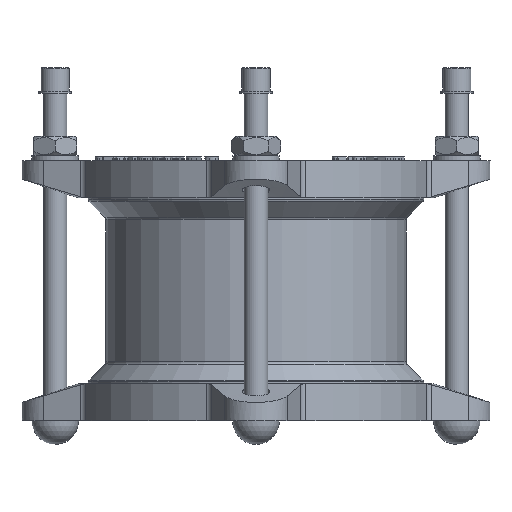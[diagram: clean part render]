
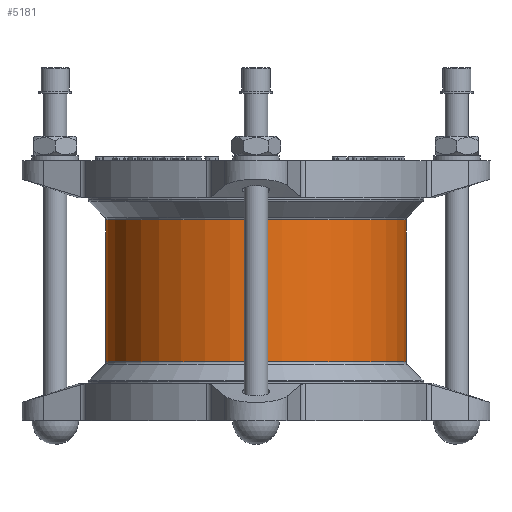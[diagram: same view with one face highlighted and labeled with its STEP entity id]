
A CAD part, front view. The second image highlights one B-rep face of the part: STEP entity #5181.
In plain terms, the highlighted cylindrical face has radius 77 mm (diameter 154 mm), a full revolution.
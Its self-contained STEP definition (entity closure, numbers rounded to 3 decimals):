
#5181=ADVANCED_FACE('',(#9623,#9625),#9627,.T.);
#9623=FACE_OUTER_BOUND('',#9624,.T.);
#9624=EDGE_LOOP('',(#14275));
#9625=FACE_OUTER_BOUND('',#9626,.T.);
#9626=EDGE_LOOP('',(#14276));
#9627=CYLINDRICAL_SURFACE('',#9628,77.);
#9628=AXIS2_PLACEMENT_3D('',#9629,#9630,#9631);
#9629=CARTESIAN_POINT('',(0.,0.,37.172));
#9630=DIRECTION('',(0.,0.,-1.));
#9631=DIRECTION('',(0.,1.,0.));
#14275=ORIENTED_EDGE('',*,*,#16305,.T.);
#14276=ORIENTED_EDGE('',*,*,#16306,.F.);
#16305=EDGE_CURVE('',#19037,#19037,#19038,.T.);
#16306=EDGE_CURVE('',#19039,#19039,#19040,.T.);
#19037=VERTEX_POINT('',#27620);
#19038=CIRCLE('',#27621,77.);
#19039=VERTEX_POINT('',#27625);
#19040=CIRCLE('',#27626,77.);
#27620=CARTESIAN_POINT('',(0.,77.,36.343));
#27621=AXIS2_PLACEMENT_3D('',#27622,#27623,#27624);
#27622=CARTESIAN_POINT('',(0.,0.,36.343));
#27623=DIRECTION('',(0.,0.,-1.));
#27624=DIRECTION('',(0.,1.,0.));
#27625=CARTESIAN_POINT('',(0.,77.,-36.343));
#27626=AXIS2_PLACEMENT_3D('',#27627,#27628,#27629);
#27627=CARTESIAN_POINT('',(0.,0.,-36.343));
#27628=DIRECTION('',(0.,0.,-1.));
#27629=DIRECTION('',(0.,1.,0.));
